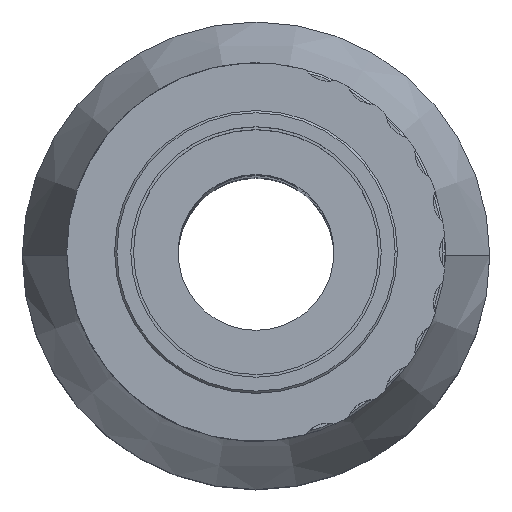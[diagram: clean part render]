
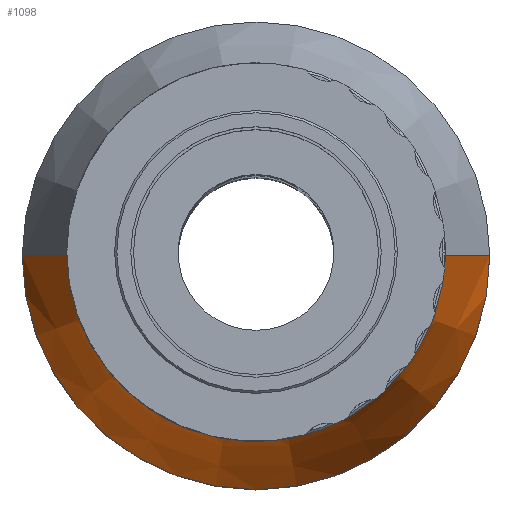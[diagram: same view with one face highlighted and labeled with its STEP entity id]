
A CAD part, top view. The second image highlights one B-rep face of the part: STEP entity #1098.
In plain terms, the highlighted conical face has half-angle 20.136 degrees and reference radius 21 mm.
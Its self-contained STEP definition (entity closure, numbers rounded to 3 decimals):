
#3 = DIRECTION ( 'NONE',  ( 0.344, 0., -0.939 ) ) ;
#335 = DIRECTION ( 'NONE',  ( 0., 0., 1. ) ) ;
#402 = EDGE_LOOP ( 'NONE', ( #1584, #524, #580, #2731 ) ) ;
#420 = EDGE_CURVE ( 'NONE', #4334, #5525, #1435, .T. ) ;
#524 = ORIENTED_EDGE ( 'NONE', *, *, #1818, .F. ) ;
#580 = ORIENTED_EDGE ( 'NONE', *, *, #3914, .T. ) ;
#879 = CARTESIAN_POINT ( 'NONE',  ( -21., 0., -146. ) ) ;
#1098 = ADVANCED_FACE ( 'NONE', ( #5424 ), #2895, .T. ) ;
#1338 = CIRCLE ( 'NONE', #3519, 15.5 ) ;
#1369 = DIRECTION ( 'NONE',  ( 0., 0., -1. ) ) ;
#1435 = CIRCLE ( 'NONE', #2627, 21. ) ;
#1584 = ORIENTED_EDGE ( 'NONE', *, *, #2897, .F. ) ;
#1818 = EDGE_CURVE ( 'NONE', #1995, #5183, #1338, .T. ) ;
#1907 = CARTESIAN_POINT ( 'NONE',  ( -15.5, 0., -131. ) ) ;
#1995 = VERTEX_POINT ( 'NONE', #1907 ) ;
#2018 = DIRECTION ( 'NONE',  ( -1., 0., 0. ) ) ;
#2129 = DIRECTION ( 'NONE',  ( -1., 0., 0. ) ) ;
#2202 = CARTESIAN_POINT ( 'NONE',  ( -21., 0., -146. ) ) ;
#2534 = CARTESIAN_POINT ( 'NONE',  ( 21., 0., -146. ) ) ;
#2627 = AXIS2_PLACEMENT_3D ( 'NONE', #3860, #3008, #2129 ) ;
#2641 = CARTESIAN_POINT ( 'NONE',  ( 0., 0., -146. ) ) ;
#2731 = ORIENTED_EDGE ( 'NONE', *, *, #420, .F. ) ;
#2876 = LINE ( 'NONE', #2534, #5191 ) ;
#2895 = CONICAL_SURFACE ( 'NONE', #5401, 21., 0.351 ) ;
#2897 = EDGE_CURVE ( 'NONE', #5183, #4334, #2876, .T. ) ;
#3008 = DIRECTION ( 'NONE',  ( 0., 0., -1. ) ) ;
#3041 = VECTOR ( 'NONE', #3905, 1000. ) ;
#3519 = AXIS2_PLACEMENT_3D ( 'NONE', #4163, #335, #2018 ) ;
#3786 = LINE ( 'NONE', #2202, #3041 ) ;
#3860 = CARTESIAN_POINT ( 'NONE',  ( 0., 0., -146. ) ) ;
#3905 = DIRECTION ( 'NONE',  ( -0.344, 0., -0.939 ) ) ;
#3914 = EDGE_CURVE ( 'NONE', #1995, #5525, #3786, .T. ) ;
#4163 = CARTESIAN_POINT ( 'NONE',  ( 0., 0., -131. ) ) ;
#4334 = VERTEX_POINT ( 'NONE', #4811 ) ;
#4811 = CARTESIAN_POINT ( 'NONE',  ( 21., 0., -146. ) ) ;
#5183 = VERTEX_POINT ( 'NONE', #5261 ) ;
#5191 = VECTOR ( 'NONE', #3, 1000. ) ;
#5261 = CARTESIAN_POINT ( 'NONE',  ( 15.5, 0., -131. ) ) ;
#5298 = DIRECTION ( 'NONE',  ( -1., 0., 0. ) ) ;
#5401 = AXIS2_PLACEMENT_3D ( 'NONE', #2641, #1369, #5298 ) ;
#5424 = FACE_OUTER_BOUND ( 'NONE', #402, .T. ) ;
#5525 = VERTEX_POINT ( 'NONE', #879 ) ;
